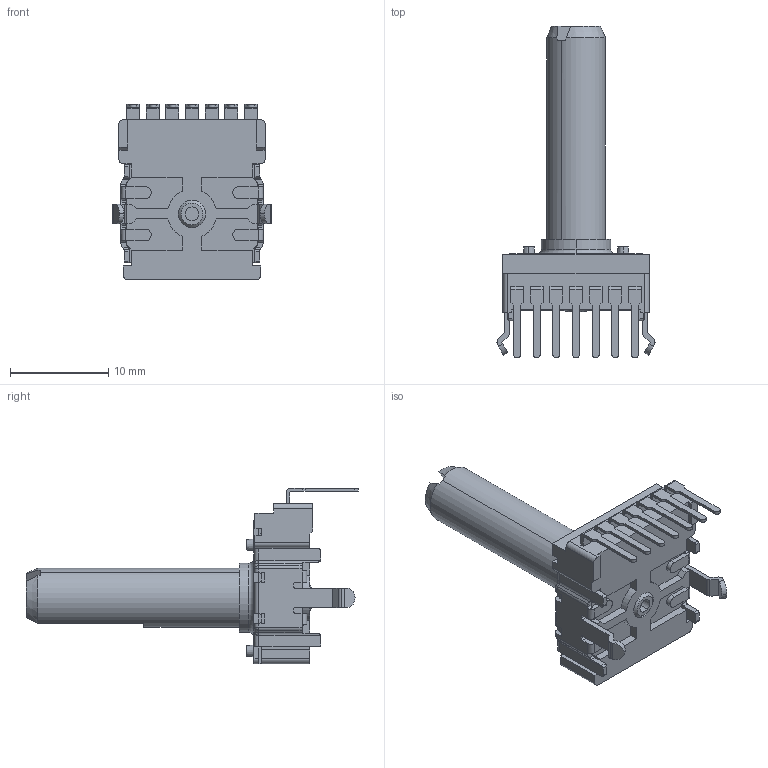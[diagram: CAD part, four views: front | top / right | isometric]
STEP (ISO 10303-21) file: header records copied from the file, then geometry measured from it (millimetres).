
FILE_DESCRIPTION (( 'STEP AP203' ), '1' );
FILE_NAME ('P140KH-F30.STEP', '2026-09-15T19:14:48', ( '' ), ( '' ), 'SwSTEP 2.0', 'SolidWorks 2026', '' );
FILE_SCHEMA (( 'CONFIG_CONTROL_DESIGN' ));
Length unit declared in the file: millimetre
Products named in the file (7): KH-housing; P140KH-F30; Housing; V-terminal; KH bracket; spring_plate; F30
Assembly tree (12 placements, depth 3):
  P140KH-F30
    KH-housing
      Housing
      V-terminal  x7
    F30
    spring_plate
    KH bracket
Bounding box: 16.1 x 33.8 x 17.85 mm (x, y, z)
Volume: 1565.4 mm3; surface area: 2826.2 mm2
Topology: 11 solids, 11 shells, 595 faces, 1632 edges, 1052 vertices
Faces by surface type: plane 376, cylinder 189, bspline 12, cone 8, torus 6, sphere 4
Entity records: 17299 total; most frequent: CARTESIAN_POINT 3227, ORIENTED_EDGE 2816, DIRECTION 2696, EDGE_CURVE 1408, VECTOR 998, LINE 998, VERTEX_POINT 908, AXIS2_PLACEMENT_3D 849
